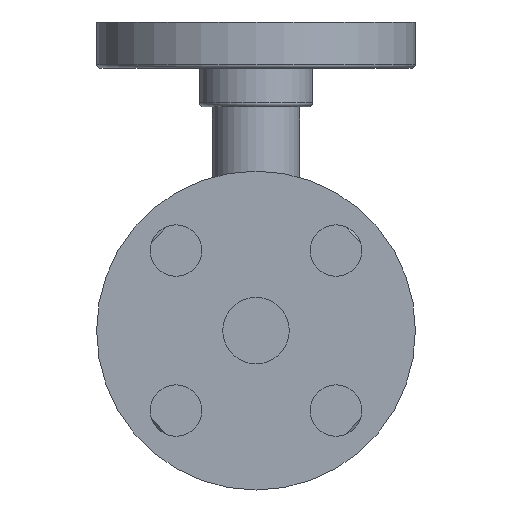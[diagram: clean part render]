
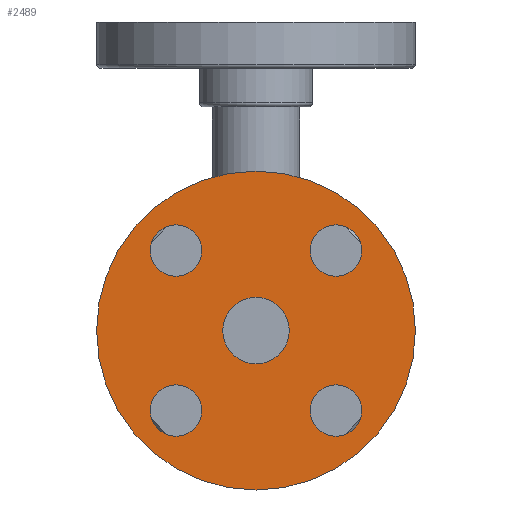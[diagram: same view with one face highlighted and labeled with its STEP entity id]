
A CAD part, front view. The second image highlights one B-rep face of the part: STEP entity #2489.
In plain terms, the highlighted planar face has unit normal (0, -1, 0).
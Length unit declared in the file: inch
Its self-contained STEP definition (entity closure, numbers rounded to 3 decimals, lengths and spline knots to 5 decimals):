
#2 = CIRCLE ( 'NONE', #4480, 0.3125 ) ;
#17 = VERTEX_POINT ( 'NONE', #731 ) ;
#100 = VERTEX_POINT ( 'NONE', #1626 ) ;
#107 = VERTEX_POINT ( 'NONE', #3212 ) ;
#125 = DIRECTION ( 'NONE',  ( -1., 0., 0. ) ) ;
#133 = EDGE_CURVE ( 'NONE', #2369, #784, #4326, .T. ) ;
#134 = ORIENTED_EDGE ( 'NONE', *, *, #2540, .T. ) ;
#146 = CARTESIAN_POINT ( 'NONE',  ( 0., -2.625, 0.404 ) ) ;
#240 = ORIENTED_EDGE ( 'NONE', *, *, #2399, .T. ) ;
#288 = ORIENTED_EDGE ( 'NONE', *, *, #133, .T. ) ;
#370 = EDGE_LOOP ( 'NONE', ( #134, #3828 ) ) ;
#444 = DIRECTION ( 'NONE',  ( 0., 1., 0. ) ) ;
#488 = VERTEX_POINT ( 'NONE', #5278 ) ;
#510 = CIRCLE ( 'NONE', #3318, 0.3125 ) ;
#580 = CIRCLE ( 'NONE', #3163, 0.404 ) ;
#618 = ORIENTED_EDGE ( 'NONE', *, *, #1144, .T. ) ;
#731 = CARTESIAN_POINT ( 'NONE',  ( 0.97227, -2.625, -1.28477 ) ) ;
#784 = VERTEX_POINT ( 'NONE', #4813 ) ;
#886 = DIRECTION ( 'NONE',  ( 0., 1., 0. ) ) ;
#981 = EDGE_CURVE ( 'NONE', #1616, #3615, #1785, .T. ) ;
#1023 = CARTESIAN_POINT ( 'NONE',  ( -0.97227, -2.625, 0.97227 ) ) ;
#1032 = EDGE_LOOP ( 'NONE', ( #240, #1310 ) ) ;
#1101 = EDGE_CURVE ( 'NONE', #4526, #17, #1260, .T. ) ;
#1109 = EDGE_CURVE ( 'NONE', #3981, #488, #2, .T. ) ;
#1118 = EDGE_CURVE ( 'NONE', #3615, #1616, #3148, .T. ) ;
#1119 = ORIENTED_EDGE ( 'NONE', *, *, #1101, .T. ) ;
#1130 = EDGE_CURVE ( 'NONE', #1819, #107, #3045, .T. ) ;
#1139 = EDGE_CURVE ( 'NONE', #784, #2369, #1960, .T. ) ;
#1144 = EDGE_CURVE ( 'NONE', #5024, #100, #3903, .T. ) ;
#1167 = AXIS2_PLACEMENT_3D ( 'NONE', #4984, #2721, #125 ) ;
#1170 = FACE_OUTER_BOUND ( 'NONE', #3299, .T. ) ;
#1260 = CIRCLE ( 'NONE', #4487, 0.3125 ) ;
#1268 = AXIS2_PLACEMENT_3D ( 'NONE', #2528, #5169, #2919 ) ;
#1310 = ORIENTED_EDGE ( 'NONE', *, *, #1109, .T. ) ;
#1365 = CARTESIAN_POINT ( 'NONE',  ( 0.97227, -2.625, 0.65977 ) ) ;
#1368 = AXIS2_PLACEMENT_3D ( 'NONE', #3339, #886, #3712 ) ;
#1397 = CARTESIAN_POINT ( 'NONE',  ( 0.97227, -2.625, -0.97227 ) ) ;
#1480 = DIRECTION ( 'NONE',  ( 0., 0., 1. ) ) ;
#1499 = CARTESIAN_POINT ( 'NONE',  ( 0., -2.625, 0. ) ) ;
#1540 = DIRECTION ( 'NONE',  ( 0., 1., 0. ) ) ;
#1575 = CARTESIAN_POINT ( 'NONE',  ( 0., -2.625, 0. ) ) ;
#1616 = VERTEX_POINT ( 'NONE', #1849 ) ;
#1626 = CARTESIAN_POINT ( 'NONE',  ( -0.97227, -2.625, -1.28477 ) ) ;
#1670 = CARTESIAN_POINT ( 'NONE',  ( -0.97227, -2.625, 1.28477 ) ) ;
#1785 = CIRCLE ( 'NONE', #4642, 1.9375 ) ;
#1808 = DIRECTION ( 'NONE',  ( 0., 0., -1. ) ) ;
#1819 = VERTEX_POINT ( 'NONE', #146 ) ;
#1826 = DIRECTION ( 'NONE',  ( 0., 1., 0. ) ) ;
#1828 = CARTESIAN_POINT ( 'NONE',  ( -0.97227, -2.625, -0.97227 ) ) ;
#1849 = CARTESIAN_POINT ( 'NONE',  ( 0., -2.625, 1.9375 ) ) ;
#1887 = ORIENTED_EDGE ( 'NONE', *, *, #4718, .T. ) ;
#1924 = CARTESIAN_POINT ( 'NONE',  ( -0.97227, -2.625, -0.65977 ) ) ;
#1960 = CIRCLE ( 'NONE', #4387, 0.3125 ) ;
#1978 = DIRECTION ( 'NONE',  ( 0., 0., 1. ) ) ;
#2187 = EDGE_LOOP ( 'NONE', ( #4948, #618 ) ) ;
#2234 = CARTESIAN_POINT ( 'NONE',  ( 0.97227, -2.625, 0.97227 ) ) ;
#2252 = DIRECTION ( 'NONE',  ( -1., 0., 0. ) ) ;
#2294 = FACE_BOUND ( 'NONE', #4839, .T. ) ;
#2352 = DIRECTION ( 'NONE',  ( 0., 1., 0. ) ) ;
#2369 = VERTEX_POINT ( 'NONE', #1365 ) ;
#2399 = EDGE_CURVE ( 'NONE', #488, #3981, #510, .T. ) ;
#2489 = ADVANCED_FACE ( 'NONE', ( #2294, #5184, #1170, #3313, #4193, #3196 ), #4247, .F. ) ;
#2528 = CARTESIAN_POINT ( 'NONE',  ( 0.97227, -2.625, 0.97227 ) ) ;
#2540 = EDGE_CURVE ( 'NONE', #107, #1819, #580, .T. ) ;
#2583 = DIRECTION ( 'NONE',  ( 0., 1., 0. ) ) ;
#2605 = EDGE_LOOP ( 'NONE', ( #288, #3826 ) ) ;
#2625 = DIRECTION ( 'NONE',  ( 1., 0., 0. ) ) ;
#2721 = DIRECTION ( 'NONE',  ( 0., 1., 0. ) ) ;
#2846 = CARTESIAN_POINT ( 'NONE',  ( 0.97227, -2.625, -0.65977 ) ) ;
#2919 = DIRECTION ( 'NONE',  ( 1., 0., 0. ) ) ;
#3000 = CARTESIAN_POINT ( 'NONE',  ( 0., -2.625, 0. ) ) ;
#3045 = CIRCLE ( 'NONE', #4413, 0.404 ) ;
#3148 = CIRCLE ( 'NONE', #4446, 1.9375 ) ;
#3163 = AXIS2_PLACEMENT_3D ( 'NONE', #1575, #4290, #1978 ) ;
#3196 = FACE_BOUND ( 'NONE', #2187, .T. ) ;
#3207 = AXIS2_PLACEMENT_3D ( 'NONE', #4622, #2352, #4994 ) ;
#3212 = CARTESIAN_POINT ( 'NONE',  ( 0., -2.625, -0.404 ) ) ;
#3299 = EDGE_LOOP ( 'NONE', ( #3704, #4621 ) ) ;
#3313 = FACE_BOUND ( 'NONE', #370, .T. ) ;
#3318 = AXIS2_PLACEMENT_3D ( 'NONE', #1023, #3820, #1480 ) ;
#3339 = CARTESIAN_POINT ( 'NONE',  ( 0.97227, -2.625, -0.97227 ) ) ;
#3379 = DIRECTION ( 'NONE',  ( 0., 0., 1. ) ) ;
#3615 = VERTEX_POINT ( 'NONE', #5072 ) ;
#3704 = ORIENTED_EDGE ( 'NONE', *, *, #1118, .F. ) ;
#3712 = DIRECTION ( 'NONE',  ( 0., 0., -1. ) ) ;
#3820 = DIRECTION ( 'NONE',  ( 0., 1., 0. ) ) ;
#3826 = ORIENTED_EDGE ( 'NONE', *, *, #1139, .T. ) ;
#3828 = ORIENTED_EDGE ( 'NONE', *, *, #1130, .T. ) ;
#3878 = CARTESIAN_POINT ( 'NONE',  ( 0., -2.625, 0. ) ) ;
#3903 = CIRCLE ( 'NONE', #4371, 0.3125 ) ;
#3981 = VERTEX_POINT ( 'NONE', #1670 ) ;
#4125 = DIRECTION ( 'NONE',  ( 0., 1., 0. ) ) ;
#4140 = CARTESIAN_POINT ( 'NONE',  ( -0.97227, -2.625, 0.97227 ) ) ;
#4193 = FACE_BOUND ( 'NONE', #2605, .T. ) ;
#4247 = PLANE ( 'NONE',  #3207 ) ;
#4259 = DIRECTION ( 'NONE',  ( 0., 0., 1. ) ) ;
#4290 = DIRECTION ( 'NONE',  ( 0., 1., 0. ) ) ;
#4326 = CIRCLE ( 'NONE', #1268, 0.3125 ) ;
#4371 = AXIS2_PLACEMENT_3D ( 'NONE', #1828, #4529, #2252 ) ;
#4387 = AXIS2_PLACEMENT_3D ( 'NONE', #2234, #4882, #2625 ) ;
#4413 = AXIS2_PLACEMENT_3D ( 'NONE', #3000, #444, #3379 ) ;
#4446 = AXIS2_PLACEMENT_3D ( 'NONE', #1499, #2583, #5226 ) ;
#4480 = AXIS2_PLACEMENT_3D ( 'NONE', #4140, #1826, #4527 ) ;
#4487 = AXIS2_PLACEMENT_3D ( 'NONE', #1397, #4125, #1808 ) ;
#4526 = VERTEX_POINT ( 'NONE', #2846 ) ;
#4527 = DIRECTION ( 'NONE',  ( 0., 0., 1. ) ) ;
#4529 = DIRECTION ( 'NONE',  ( 0., 1., 0. ) ) ;
#4621 = ORIENTED_EDGE ( 'NONE', *, *, #981, .F. ) ;
#4622 = CARTESIAN_POINT ( 'NONE',  ( 0., -2.625, 0. ) ) ;
#4642 = AXIS2_PLACEMENT_3D ( 'NONE', #3878, #1540, #4259 ) ;
#4692 = CIRCLE ( 'NONE', #1368, 0.3125 ) ;
#4718 = EDGE_CURVE ( 'NONE', #17, #4526, #4692, .T. ) ;
#4813 = CARTESIAN_POINT ( 'NONE',  ( 0.97227, -2.625, 1.28477 ) ) ;
#4839 = EDGE_LOOP ( 'NONE', ( #1887, #1119 ) ) ;
#4879 = CIRCLE ( 'NONE', #1167, 0.3125 ) ;
#4882 = DIRECTION ( 'NONE',  ( 0., 1., 0. ) ) ;
#4948 = ORIENTED_EDGE ( 'NONE', *, *, #5021, .T. ) ;
#4984 = CARTESIAN_POINT ( 'NONE',  ( -0.97227, -2.625, -0.97227 ) ) ;
#4994 = DIRECTION ( 'NONE',  ( 0., 0., 1. ) ) ;
#5021 = EDGE_CURVE ( 'NONE', #100, #5024, #4879, .T. ) ;
#5024 = VERTEX_POINT ( 'NONE', #1924 ) ;
#5072 = CARTESIAN_POINT ( 'NONE',  ( 0., -2.625, -1.9375 ) ) ;
#5169 = DIRECTION ( 'NONE',  ( 0., 1., 0. ) ) ;
#5184 = FACE_BOUND ( 'NONE', #1032, .T. ) ;
#5226 = DIRECTION ( 'NONE',  ( 0., 0., 1. ) ) ;
#5278 = CARTESIAN_POINT ( 'NONE',  ( -0.97227, -2.625, 0.65977 ) ) ;
